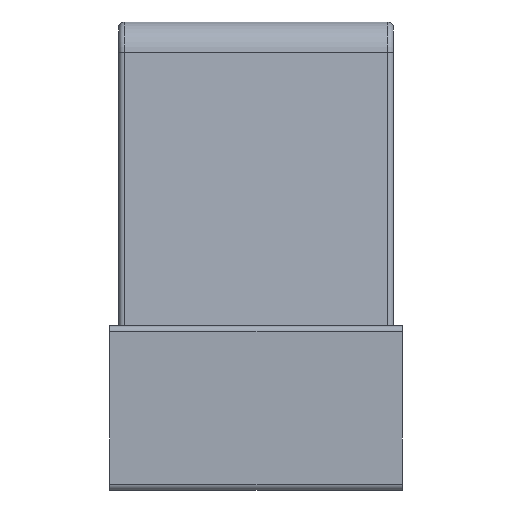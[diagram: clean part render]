
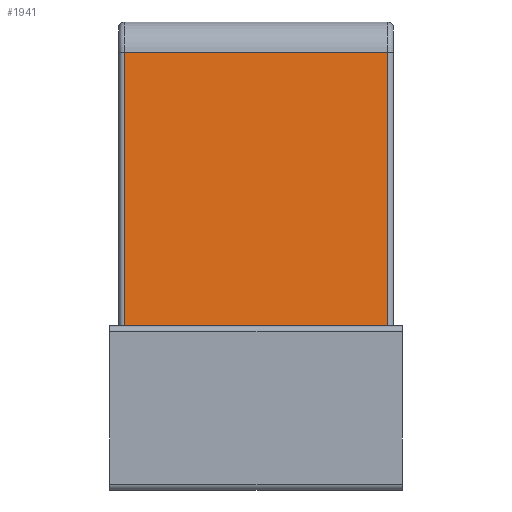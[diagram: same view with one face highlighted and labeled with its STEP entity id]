
A CAD part, left-side view. The second image highlights one B-rep face of the part: STEP entity #1941.
In plain terms, the highlighted planar face has unit normal (-0.998, 0, 0.069).
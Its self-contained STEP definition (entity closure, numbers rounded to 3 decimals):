
#268=ORIENTED_EDGE('',*,*,#622,.T.);
#269=ORIENTED_EDGE('',*,*,#624,.T.);
#270=ORIENTED_EDGE('',*,*,#625,.T.);
#271=ORIENTED_EDGE('',*,*,#626,.T.);
#622=EDGE_CURVE('',#789,#788,#919,.T.);
#624=EDGE_CURVE('',#788,#735,#920,.T.);
#625=EDGE_CURVE('',#735,#732,#921,.F.);
#626=EDGE_CURVE('',#732,#789,#922,.F.);
#732=VERTEX_POINT('',#2588);
#735=VERTEX_POINT('',#2596);
#788=VERTEX_POINT('',#2747);
#789=VERTEX_POINT('',#2749);
#919=LINE('',#2748,#1087);
#920=LINE('',#2752,#1088);
#921=LINE('',#2753,#1089);
#922=LINE('',#2754,#1090);
#1087=VECTOR('',#2315,1000.);
#1088=VECTOR('',#2320,1000.);
#1089=VECTOR('',#2321,1000.);
#1090=VECTOR('',#2322,1000.);
#1174=EDGE_LOOP('',(#268,#269,#270,#271));
#1252=FACE_BOUND('',#1174,.T.);
#1328=PLANE('',#2044);
#1941=ADVANCED_FACE('',(#1252),#1328,.F.);
#2044=AXIS2_PLACEMENT_3D('',#2751,#2318,#2319);
#2315=DIRECTION('',(0.,1.,0.));
#2318=DIRECTION('',(0.998,0.,-0.069));
#2319=DIRECTION('',(-0.069,0.,-0.998));
#2320=DIRECTION('',(-0.069,0.,-0.998));
#2321=DIRECTION('',(0.,1.,0.));
#2322=DIRECTION('',(-0.069,0.,-0.998));
#2588=CARTESIAN_POINT('',(-0.602,-0.225,0.281));
#2596=CARTESIAN_POINT('',(-0.602,0.225,0.281));
#2747=CARTESIAN_POINT('',(-0.57,0.225,0.748));
#2748=CARTESIAN_POINT('',(-0.57,-0.25,0.748));
#2749=CARTESIAN_POINT('',(-0.57,-0.225,0.748));
#2751=CARTESIAN_POINT('',(-0.602,-0.25,0.281));
#2752=CARTESIAN_POINT('',(-0.602,0.225,0.281));
#2753=CARTESIAN_POINT('',(-0.602,-0.25,0.281));
#2754=CARTESIAN_POINT('',(-0.57,-0.225,0.748));
